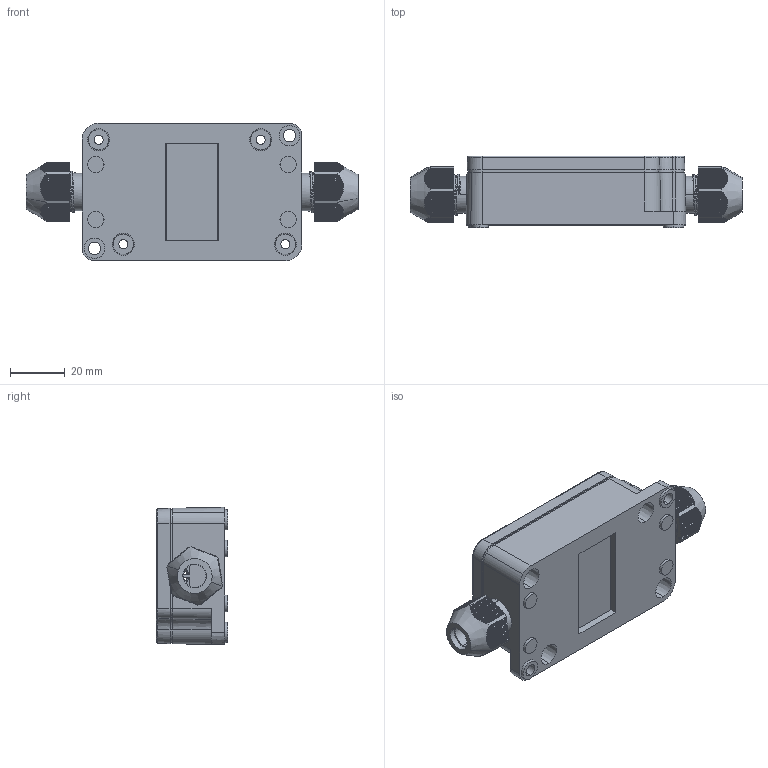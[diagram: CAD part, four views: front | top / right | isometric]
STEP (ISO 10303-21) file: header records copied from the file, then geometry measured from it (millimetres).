
FILE_DESCRIPTION (( 'STEP AP203' ), '1' );
FILE_NAME ('TB-204.STEP', '2018-09-21T14:31:28', ( '' ), ( '' ), 'SwSTEP 2.0', 'SolidWorks 2018', '' );
FILE_SCHEMA (( 'CONFIG_CONTROL_DESIGN' ));
Length unit declared in the file: millimetre
Products named in the file (5): TB-204; klemens; govde; A-70_screw; CAP_PG9_cable_gland
Assembly tree (15 placements, depth 2):
  TB-204
    govde
    klemens  x4
    A-70_screw  x8
    CAP_PG9_cable_gland  x2
Bounding box: 120.86 x 26 x 50 mm (x, y, z)
Volume: 48513.6 mm3; surface area: 50933.7 mm2
Topology: 18 solids, 18 shells, 1807 faces, 5012 edges, 3314 vertices
Faces by surface type: plane 1059, cylinder 496, cone 178, bspline 40, torus 34
Entity records: 43680 total; most frequent: CARTESIAN_POINT 19380, ORIENTED_EDGE 5294, DIRECTION 4367, EDGE_CURVE 2647, VERTEX_POINT 1764, VECTOR 1491, LINE 1491, AXIS2_PLACEMENT_3D 1438
